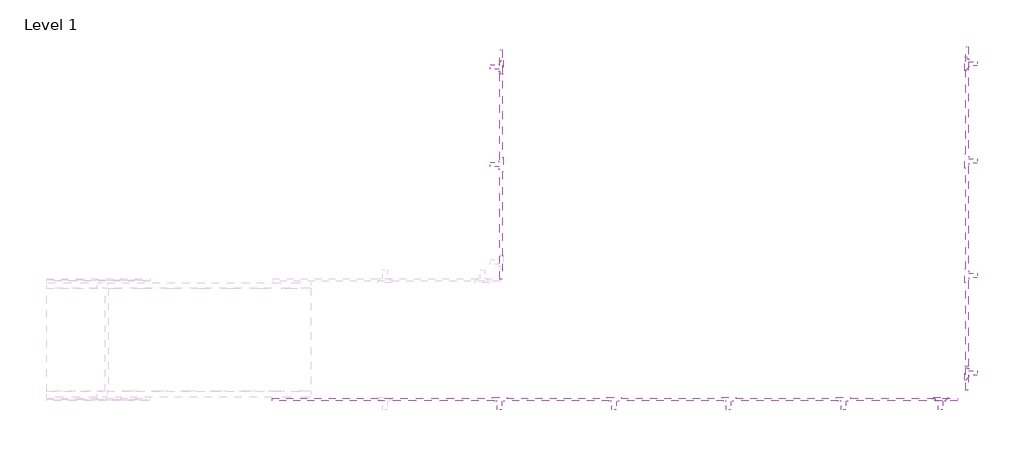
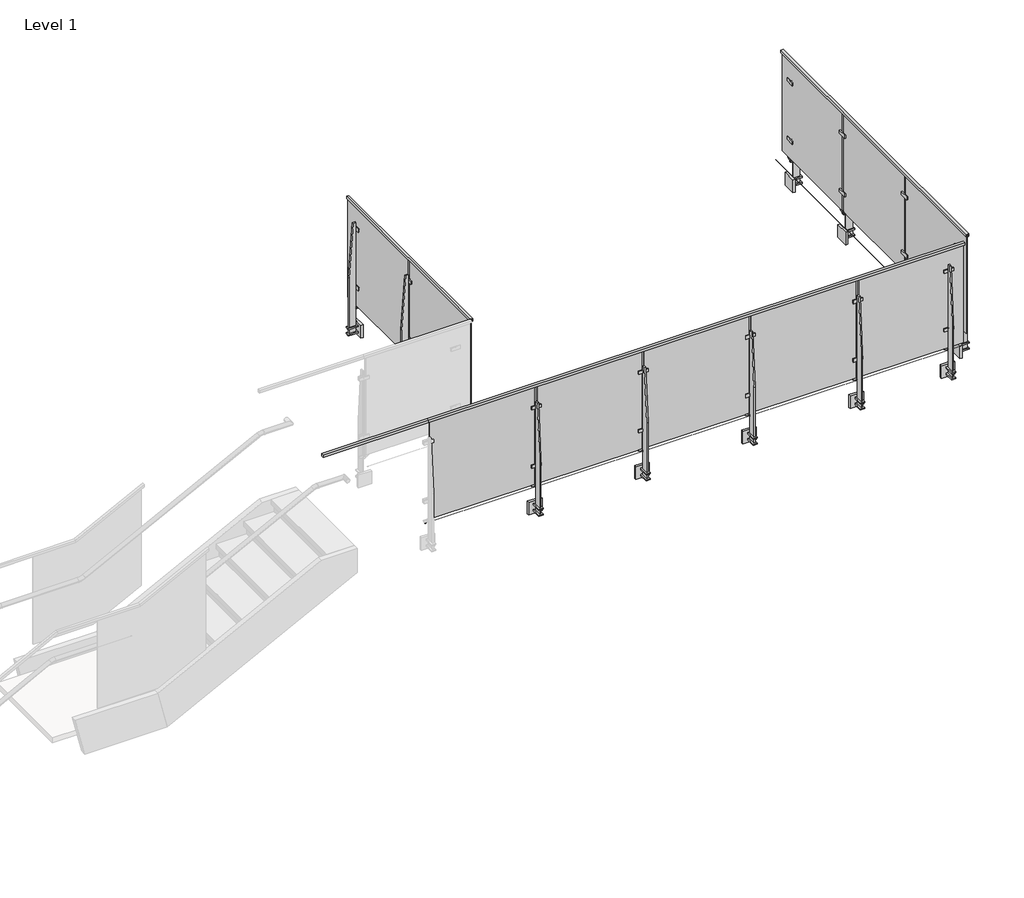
# One storey, part 31 of 37: 4 proxies, 3 railings.
"""IFC4 building model written with IfcOpenShell, lengths in millimetres."""

from ifc_helpers import new_model, si_unit, point, frame, frame_2d, origin, place, context, project, spatial, polyline, circle_curve, trimmed, segment, composite_curve, outline, extrude, faceted_brep, transform, mapped, element, save
from components import baluster_end_post_viva_solo_top_mount_260e03f1, baluster_end_post_viva_solo_top_mount_5a94812b

model = new_model("IFC4")

# Units and contexts
model_context = context("Model", 3, world=origin())
ifc_project = project(units=[si_unit("LENGTHUNIT", "METRE", prefix="MILLI")], contexts=[model_context])

# Site, building, storey
site = spatial("IfcSite", under=ifc_project)
building = spatial("IfcBuilding", under=site)
storey = spatial("IfcBuildingStorey", under=building, Name="Level 1", Elevation=0.0)

# Proxies
placement = place(None, origin())
baluster_end_post_viva_solo_top_mount_shape = baluster_end_post_viva_solo_top_mount_260e03f1(model_context)
element("IfcBuildingElementProxy", 1, Name="Baluster-End-Post-VIVA-SOLO-Top Mount : ANCHORED TO CONCRETE_FASCIA B1 MOUNT FOLD_STRAIGHT", ObjectType="Baluster-End-Post-VIVA-SOLO-Top Mount : ANCHORED TO CONCRETE_FASCIA B1 MOUNT FOLD_STRAIGHT", at=placement, inside=storey, context=model_context, shape_type="MappedRepresentation", body=[
    mapped(baluster_end_post_viva_solo_top_mount_shape, transform((13903.0469465, 22884.3892864, 3047.492), x_axis=(0.0, 1.0, 0.0), y_axis=(-1.0, 0.0, 0.0), z_axis=(0.0, 0.0, 1.0))),
])
element("IfcBuildingElementProxy", 2, Name="Baluster-End-Post-VIVA-SOLO-Top Mount : ANCHORED TO CONCRETE_FASCIA B1 MOUNT FOLD_STRAIGHT", ObjectType="Baluster-End-Post-VIVA-SOLO-Top Mount : ANCHORED TO CONCRETE_FASCIA B1 MOUNT FOLD_STRAIGHT", at=placement, inside=storey, context=model_context, shape_type="MappedRepresentation", body=[
    mapped(baluster_end_post_viva_solo_top_mount_shape, transform((9883.7633116, 25902.0118977, 3047.492), x_axis=(0.0, -1.0, 0.0), y_axis=(1.0, 0.0, 0.0), z_axis=(0.0, 0.0, 1.0))),
])
baluster_end_post_viva_solo_top_mount_2_shape = baluster_end_post_viva_solo_top_mount_5a94812b(model_context)
element("IfcBuildingElementProxy", 3, Name="Baluster-End-Post-VIVA-SOLO-Top Mount : ANCHORED TO CONCRETE_FASCIA B1 MOUNT FOLD_STRAIGHT", ObjectType="Baluster-End-Post-VIVA-SOLO-Top Mount : ANCHORED TO CONCRETE_FASCIA B1 MOUNT FOLD_STRAIGHT", at=placement, inside=storey, context=model_context, shape_type="MappedRepresentation", body=[
    mapped(baluster_end_post_viva_solo_top_mount_2_shape, transform((13879.6346922, 22860.1991645, 3047.492), x_axis=(1.0, 0.0, 0.0), y_axis=(0.0, 1.0, 0.0), z_axis=(0.0, 0.0, 1.0))),
])
element("IfcBuildingElementProxy", 4, Name="Baluster-End-Post-VIVA-SOLO-Top Mount : ANCHORED TO CONCRETE_FASCIA B1 MOUNT FOLD_STRAIGHT", ObjectType="Baluster-End-Post-VIVA-SOLO-Top Mount : ANCHORED TO CONCRETE_FASCIA B1 MOUNT FOLD_STRAIGHT", at=placement, inside=storey, context=model_context, shape_type="MappedRepresentation", body=[
    mapped(baluster_end_post_viva_solo_top_mount_2_shape, transform((13903.0469465, 25932.3892864, 3047.492), x_axis=(0.0, 1.0, 0.0), y_axis=(-1.0, 0.0, 0.0), z_axis=(0.0, 0.0, 1.0))),
])

# Railings
element("IfcRailing", 5, ObjectType="VIVA-SOLO-Glass-Fascia Mount-Straight-B1", at=placement, inside=storey, context=model_context, shape_type="SolidModel", body=[
    extrude(outline(composite_curve([segment(trimmed(circle_curve(frame_2d((22860.1991645, 3047.746)), 0.254), [point((22859.9451645, 3047.746))], [point((22860.4531645, 3047.746))], False, "CARTESIAN"), True, "CONTINUOUS"), segment(trimmed(circle_curve(frame_2d((22860.1991645, 3047.746)), 0.254), [point((22860.4531645, 3047.746))], [point((22859.9451645, 3047.746))], False, "CARTESIAN"), True, "CONTINUOUS")], self_intersect=False)), frame((8799.6346922, 0.0, 0.0), z_axis=(1.0, 0.0, 0.0), x_axis=(0.0, 1.0, 0.0)), (0.0, 0.0, 1.0), 5080.0),
    extrude(outline(composite_curve([segment(trimmed(circle_curve(frame_2d((22860.1991645, 3047.746)), 0.254), [point((22859.9451645, 3047.746))], [point((22860.4531645, 3047.746))], False, "CARTESIAN"), True, "CONTINUOUS"), segment(trimmed(circle_curve(frame_2d((22860.1991645, 3047.746)), 0.254), [point((22860.4531645, 3047.746))], [point((22859.9451645, 3047.746))], False, "CARTESIAN"), True, "CONTINUOUS")], self_intersect=False)), frame((8799.6346922, 0.0, 0.0), z_axis=(1.0, 0.0, 0.0), x_axis=(0.0, 1.0, 0.0)), (0.0, 0.0, 1.0), 5080.0),
    faceted_brep([(13879.6346922, 22792.2541645, 4127.5), (13879.6346922, 22792.2541645, 4102.1), (13879.6346922, 22797.0166645, 4102.1), (13879.6346922, 22797.0166645, 4122.7375), (13879.6346922, 22809.7166645, 4122.7375), (13879.6346922, 22809.7166645, 4102.1), (13879.6346922, 22814.4791645, 4102.1), (13879.6346922, 22814.4791645, 4127.5), (8799.6346922, 22814.4791645, 4127.5), (8799.6346922, 22792.2541645, 4127.5), (8799.6346922, 22814.4791645, 4102.1), (8799.6346922, 22809.7166645, 4102.1), (8799.6346922, 22809.7166645, 4122.7375), (8799.6346922, 22797.0166645, 4122.7375), (8799.6346922, 22797.0166645, 4102.1), (8799.6346922, 22792.2541645, 4102.1), (7798.4793748, 22792.2541645, 4127.5), (7798.4793748, 22814.4791645, 4127.5), (7798.4793748, 22814.4791645, 4102.1), (7798.4793748, 22809.7166645, 4102.1), (7798.4793748, 22809.7166645, 4122.7375), (7798.4793748, 22797.0166645, 4122.7375), (7798.4793748, 22797.0166645, 4102.1), (7798.4793748, 22792.2541645, 4102.1)], [[[0, 1, 2, 3, 4, 5, 6, 7]], [[8, 9, 0, 7]], [[10, 8, 7, 6]], [[11, 10, 6, 5]], [[12, 11, 5, 4]], [[13, 12, 4, 3]], [[14, 13, 3, 2]], [[15, 14, 2, 1]], [[9, 15, 1, 0]], [[16, 17, 18, 19, 20, 21, 22, 23]], [[17, 16, 9, 8]], [[18, 17, 8, 10]], [[19, 18, 10, 11]], [[20, 19, 11, 12]], [[21, 20, 12, 13]], [[22, 21, 13, 14]], [[23, 22, 14, 15]], [[16, 23, 15, 9]]]),
    extrude(outline(polyline([(12876.7177388, 22809.6531645), (13867.3177388, 22809.6531645), (13867.3177388, 22796.9531645), (12876.7177388, 22796.9531645), (12876.7177388, 22809.6531645)])), frame((0.0, 0.0, 3124.2), z_axis=(0.0, 0.0, 1.0), x_axis=(1.0, 0.0, 0.0)), (0.0, 0.0, 1.0), 998.474),
    extrude(outline(polyline([(22787.4281645, 3962.4), (22787.4281645, 2863.85), (22723.9281645, 2863.85), (22723.9281645, 3429.0), (22762.0281645, 3962.4), (22787.4281645, 3962.4)])), frame((12857.2846922, 0.0, 0.0), z_axis=(1.0, 0.0, 0.0), x_axis=(0.0, 1.0, 0.0)), (0.0, 0.0, 1.0), 12.7),
    extrude(outline(polyline([(12883.4784422, 22803.3031645), (12883.4784422, 22709.6406645), (12843.7909422, 22709.6406645), (12843.7909422, 22803.3031645), (12883.4784422, 22803.3031645)])), frame((0.0, 0.0, 2919.4125), z_axis=(0.0, 0.0, 1.0), x_axis=(1.0, 0.0, 0.0)), (0.0, 0.0, 1.0), 12.7),
    extrude(outline(polyline([(12883.4784422, 22803.3031645), (12883.4784422, 22709.6406645), (12843.7909422, 22709.6406645), (12843.7909422, 22803.3031645), (12883.4784422, 22803.3031645)])), frame((0.0, 0.0, 2859.0875), z_axis=(0.0, 0.0, 1.0), x_axis=(1.0, 0.0, 0.0)), (0.0, 0.0, 1.0), 12.7),
    extrude(outline(polyline([(12819.1846922, 22796.9531645), (12908.0846922, 22796.9531645), (12908.0846922, 22787.4281645), (12819.1846922, 22787.4281645), (12819.1846922, 22796.9531645)])), frame((0.0, 0.0, 3299.9910694), z_axis=(0.0, 0.0, 1.0), x_axis=(1.0, 0.0, 0.0)), (0.0, 0.0, 1.0), 31.75),
    extrude(outline(polyline([(12819.1846922, 22796.9531645), (12908.0846922, 22796.9531645), (12908.0846922, 22787.4281645), (12819.1846922, 22787.4281645), (12819.1846922, 22796.9531645)])), frame((0.0, 0.0, 3886.2992187), z_axis=(0.0, 0.0, 1.0), x_axis=(1.0, 0.0, 0.0)), (0.0, 0.0, 1.0), 31.75),
    extrude(outline(polyline([(12819.1846922, 22819.1781645), (12908.0846922, 22819.1781645), (12908.0846922, 22809.6531645), (12819.1846922, 22809.6531645), (12819.1846922, 22819.1781645)])), frame((0.0, 0.0, 3299.9910694), z_axis=(0.0, 0.0, 1.0), x_axis=(1.0, 0.0, 0.0)), (0.0, 0.0, 1.0), 31.75),
    extrude(outline(polyline([(12819.1846922, 22819.1781645), (12908.0846922, 22819.1781645), (12908.0846922, 22809.6531645), (12819.1846922, 22809.6531645), (12819.1846922, 22819.1781645)])), frame((0.0, 0.0, 3886.2992187), z_axis=(0.0, 0.0, 1.0), x_axis=(1.0, 0.0, 0.0)), (0.0, 0.0, 1.0), 31.75),
    extrude(outline(polyline([(3124.2, 12908.0846922), (3124.2, 12819.1846922), (3117.85, 12819.1846922), (3095.9353513, 12863.6346922), (3117.85, 12908.0846922), (3124.2, 12908.0846922)])), frame((0.0, 22796.9531645, 0.0), z_axis=(0.0, 1.0, 0.0), x_axis=(0.0, 0.0, 1.0)), (0.0, 0.0, 1.0), 12.7),
    extrude(outline(polyline([(12800.1346922, 22823.9406645), (12927.1346922, 22823.9406645), (12927.1346922, 22803.3031645), (12800.1346922, 22803.3031645), (12800.1346922, 22823.9406645)])), frame((0.0, 0.0, 2832.1), z_axis=(0.0, 0.0, 1.0), x_axis=(1.0, 0.0, 0.0)), (0.0, 0.0, 1.0), 127.0),
    extrude(outline(composite_curve([segment(trimmed(circle_curve(frame_2d((3315.8660694, 12863.6346922)), 6.35), [point((3315.8660694, 12869.9846922))], [point((3315.8660694, 12857.2846922))], False, "CARTESIAN"), True, "CONTINUOUS"), segment(trimmed(circle_curve(frame_2d((3315.8660694, 12863.6346922)), 6.35), [point((3315.8660694, 12857.2846922))], [point((3315.8660694, 12869.9846922))], False, "CARTESIAN"), True, "CONTINUOUS")], self_intersect=False)), frame((0.0, 22796.9531645, 0.0), z_axis=(0.0, 1.0, 0.0), x_axis=(0.0, 0.0, 1.0)), (0.0, 0.0, 1.0), 12.7),
    extrude(outline(composite_curve([segment(trimmed(circle_curve(frame_2d((3902.1742187, 12863.6346922)), 6.35), [point((3902.1742187, 12869.9846922))], [point((3902.1742187, 12857.2846922))], False, "CARTESIAN"), True, "CONTINUOUS"), segment(trimmed(circle_curve(frame_2d((3902.1742187, 12863.6346922)), 6.35), [point((3902.1742187, 12857.2846922))], [point((3902.1742187, 12869.9846922))], False, "CARTESIAN"), True, "CONTINUOUS")], self_intersect=False)), frame((0.0, 22796.9531645, 0.0), z_axis=(0.0, 1.0, 0.0), x_axis=(0.0, 0.0, 1.0)), (0.0, 0.0, 1.0), 12.7),
    extrude(outline(composite_curve([segment(trimmed(circle_curve(frame_2d((3108.325, 12863.6346922)), 11.1125), [point((3108.325, 12874.7471922))], [point((3108.325, 12852.5221922))], False, "CARTESIAN"), True, "CONTINUOUS"), segment(trimmed(circle_curve(frame_2d((3108.325, 12863.6346922)), 11.1125), [point((3108.325, 12852.5221922))], [point((3108.325, 12874.7471922))], False, "CARTESIAN"), True, "CONTINUOUS")], self_intersect=False)), frame((0.0, 22787.4281645, 0.0), z_axis=(0.0, 1.0, 0.0), x_axis=(0.0, 0.0, 1.0)), (0.0, 0.0, 1.0), 25.4),
    extrude(outline(polyline([(11860.7177388, 22809.6531645), (12851.3177388, 22809.6531645), (12851.3177388, 22796.9531645), (11860.7177388, 22796.9531645), (11860.7177388, 22809.6531645)])), frame((0.0, 0.0, 3124.2), z_axis=(0.0, 0.0, 1.0), x_axis=(1.0, 0.0, 0.0)), (0.0, 0.0, 1.0), 998.474),
    extrude(outline(polyline([(22787.4281645, 3962.4), (22787.4281645, 2863.85), (22723.9281645, 2863.85), (22723.9281645, 3429.0), (22762.0281645, 3962.4), (22787.4281645, 3962.4)])), frame((11841.2846922, 0.0, 0.0), z_axis=(1.0, 0.0, 0.0), x_axis=(0.0, 1.0, 0.0)), (0.0, 0.0, 1.0), 12.7),
    extrude(outline(polyline([(11867.4784422, 22803.3031645), (11867.4784422, 22709.6406645), (11827.7909422, 22709.6406645), (11827.7909422, 22803.3031645), (11867.4784422, 22803.3031645)])), frame((0.0, 0.0, 2919.4125), z_axis=(0.0, 0.0, 1.0), x_axis=(1.0, 0.0, 0.0)), (0.0, 0.0, 1.0), 12.7),
    extrude(outline(polyline([(11867.4784422, 22803.3031645), (11867.4784422, 22709.6406645), (11827.7909422, 22709.6406645), (11827.7909422, 22803.3031645), (11867.4784422, 22803.3031645)])), frame((0.0, 0.0, 2859.0875), z_axis=(0.0, 0.0, 1.0), x_axis=(1.0, 0.0, 0.0)), (0.0, 0.0, 1.0), 12.7),
    extrude(outline(polyline([(11803.1846922, 22796.9531645), (11892.0846922, 22796.9531645), (11892.0846922, 22787.4281645), (11803.1846922, 22787.4281645), (11803.1846922, 22796.9531645)])), frame((0.0, 0.0, 3299.9910694), z_axis=(0.0, 0.0, 1.0), x_axis=(1.0, 0.0, 0.0)), (0.0, 0.0, 1.0), 31.75),
    extrude(outline(polyline([(11803.1846922, 22796.9531645), (11892.0846922, 22796.9531645), (11892.0846922, 22787.4281645), (11803.1846922, 22787.4281645), (11803.1846922, 22796.9531645)])), frame((0.0, 0.0, 3886.2992187), z_axis=(0.0, 0.0, 1.0), x_axis=(1.0, 0.0, 0.0)), (0.0, 0.0, 1.0), 31.75),
    extrude(outline(polyline([(11803.1846922, 22819.1781645), (11892.0846922, 22819.1781645), (11892.0846922, 22809.6531645), (11803.1846922, 22809.6531645), (11803.1846922, 22819.1781645)])), frame((0.0, 0.0, 3299.9910694), z_axis=(0.0, 0.0, 1.0), x_axis=(1.0, 0.0, 0.0)), (0.0, 0.0, 1.0), 31.75),
    extrude(outline(polyline([(11803.1846922, 22819.1781645), (11892.0846922, 22819.1781645), (11892.0846922, 22809.6531645), (11803.1846922, 22809.6531645), (11803.1846922, 22819.1781645)])), frame((0.0, 0.0, 3886.2992187), z_axis=(0.0, 0.0, 1.0), x_axis=(1.0, 0.0, 0.0)), (0.0, 0.0, 1.0), 31.75),
    extrude(outline(polyline([(3124.2, 11892.0846922), (3124.2, 11803.1846922), (3117.85, 11803.1846922), (3095.9353513, 11847.6346922), (3117.85, 11892.0846922), (3124.2, 11892.0846922)])), frame((0.0, 22796.9531645, 0.0), z_axis=(0.0, 1.0, 0.0), x_axis=(0.0, 0.0, 1.0)), (0.0, 0.0, 1.0), 12.7),
    extrude(outline(polyline([(11784.1346922, 22823.9406645), (11911.1346922, 22823.9406645), (11911.1346922, 22803.3031645), (11784.1346922, 22803.3031645), (11784.1346922, 22823.9406645)])), frame((0.0, 0.0, 2832.1), z_axis=(0.0, 0.0, 1.0), x_axis=(1.0, 0.0, 0.0)), (0.0, 0.0, 1.0), 127.0),
    extrude(outline(composite_curve([segment(trimmed(circle_curve(frame_2d((3315.8660694, 11847.6346922)), 6.35), [point((3315.8660694, 11853.9846922))], [point((3315.8660694, 11841.2846922))], False, "CARTESIAN"), True, "CONTINUOUS"), segment(trimmed(circle_curve(frame_2d((3315.8660694, 11847.6346922)), 6.35), [point((3315.8660694, 11841.2846922))], [point((3315.8660694, 11853.9846922))], False, "CARTESIAN"), True, "CONTINUOUS")], self_intersect=False)), frame((0.0, 22796.9531645, 0.0), z_axis=(0.0, 1.0, 0.0), x_axis=(0.0, 0.0, 1.0)), (0.0, 0.0, 1.0), 12.7),
    extrude(outline(composite_curve([segment(trimmed(circle_curve(frame_2d((3902.1742187, 11847.6346922)), 6.35), [point((3902.1742187, 11853.9846922))], [point((3902.1742187, 11841.2846922))], False, "CARTESIAN"), True, "CONTINUOUS"), segment(trimmed(circle_curve(frame_2d((3902.1742187, 11847.6346922)), 6.35), [point((3902.1742187, 11841.2846922))], [point((3902.1742187, 11853.9846922))], False, "CARTESIAN"), True, "CONTINUOUS")], self_intersect=False)), frame((0.0, 22796.9531645, 0.0), z_axis=(0.0, 1.0, 0.0), x_axis=(0.0, 0.0, 1.0)), (0.0, 0.0, 1.0), 12.7),
    extrude(outline(composite_curve([segment(trimmed(circle_curve(frame_2d((3108.325, 11847.6346922)), 11.1125), [point((3108.325, 11858.7471922))], [point((3108.325, 11836.5221922))], False, "CARTESIAN"), True, "CONTINUOUS"), segment(trimmed(circle_curve(frame_2d((3108.325, 11847.6346922)), 11.1125), [point((3108.325, 11836.5221922))], [point((3108.325, 11858.7471922))], False, "CARTESIAN"), True, "CONTINUOUS")], self_intersect=False)), frame((0.0, 22787.4281645, 0.0), z_axis=(0.0, 1.0, 0.0), x_axis=(0.0, 0.0, 1.0)), (0.0, 0.0, 1.0), 25.4),
    extrude(outline(polyline([(10844.7177388, 22809.6531645), (11835.3177388, 22809.6531645), (11835.3177388, 22796.9531645), (10844.7177388, 22796.9531645), (10844.7177388, 22809.6531645)])), frame((0.0, 0.0, 3124.2), z_axis=(0.0, 0.0, 1.0), x_axis=(1.0, 0.0, 0.0)), (0.0, 0.0, 1.0), 998.474),
    extrude(outline(polyline([(22787.4281645, 3962.4), (22787.4281645, 2863.85), (22723.9281645, 2863.85), (22723.9281645, 3429.0), (22762.0281645, 3962.4), (22787.4281645, 3962.4)])), frame((10825.2846922, 0.0, 0.0), z_axis=(1.0, 0.0, 0.0), x_axis=(0.0, 1.0, 0.0)), (0.0, 0.0, 1.0), 12.7),
    extrude(outline(polyline([(10851.4784422, 22803.3031645), (10851.4784422, 22709.6406645), (10811.7909422, 22709.6406645), (10811.7909422, 22803.3031645), (10851.4784422, 22803.3031645)])), frame((0.0, 0.0, 2919.4125), z_axis=(0.0, 0.0, 1.0), x_axis=(1.0, 0.0, 0.0)), (0.0, 0.0, 1.0), 12.7),
    extrude(outline(polyline([(10851.4784422, 22803.3031645), (10851.4784422, 22709.6406645), (10811.7909422, 22709.6406645), (10811.7909422, 22803.3031645), (10851.4784422, 22803.3031645)])), frame((0.0, 0.0, 2859.0875), z_axis=(0.0, 0.0, 1.0), x_axis=(1.0, 0.0, 0.0)), (0.0, 0.0, 1.0), 12.7),
    extrude(outline(polyline([(10787.1846922, 22796.9531645), (10876.0846922, 22796.9531645), (10876.0846922, 22787.4281645), (10787.1846922, 22787.4281645), (10787.1846922, 22796.9531645)])), frame((0.0, 0.0, 3299.9910694), z_axis=(0.0, 0.0, 1.0), x_axis=(1.0, 0.0, 0.0)), (0.0, 0.0, 1.0), 31.75),
    extrude(outline(polyline([(10787.1846922, 22796.9531645), (10876.0846922, 22796.9531645), (10876.0846922, 22787.4281645), (10787.1846922, 22787.4281645), (10787.1846922, 22796.9531645)])), frame((0.0, 0.0, 3886.2992187), z_axis=(0.0, 0.0, 1.0), x_axis=(1.0, 0.0, 0.0)), (0.0, 0.0, 1.0), 31.75),
    extrude(outline(polyline([(10787.1846922, 22819.1781645), (10876.0846922, 22819.1781645), (10876.0846922, 22809.6531645), (10787.1846922, 22809.6531645), (10787.1846922, 22819.1781645)])), frame((0.0, 0.0, 3299.9910694), z_axis=(0.0, 0.0, 1.0), x_axis=(1.0, 0.0, 0.0)), (0.0, 0.0, 1.0), 31.75),
    extrude(outline(polyline([(10787.1846922, 22819.1781645), (10876.0846922, 22819.1781645), (10876.0846922, 22809.6531645), (10787.1846922, 22809.6531645), (10787.1846922, 22819.1781645)])), frame((0.0, 0.0, 3886.2992187), z_axis=(0.0, 0.0, 1.0), x_axis=(1.0, 0.0, 0.0)), (0.0, 0.0, 1.0), 31.75),
    extrude(outline(polyline([(3124.2, 10876.0846922), (3124.2, 10787.1846922), (3117.85, 10787.1846922), (3095.9353513, 10831.6346922), (3117.85, 10876.0846922), (3124.2, 10876.0846922)])), frame((0.0, 22796.9531645, 0.0), z_axis=(0.0, 1.0, 0.0), x_axis=(0.0, 0.0, 1.0)), (0.0, 0.0, 1.0), 12.7),
    extrude(outline(polyline([(10768.1346922, 22823.9406645), (10895.1346922, 22823.9406645), (10895.1346922, 22803.3031645), (10768.1346922, 22803.3031645), (10768.1346922, 22823.9406645)])), frame((0.0, 0.0, 2832.1), z_axis=(0.0, 0.0, 1.0), x_axis=(1.0, 0.0, 0.0)), (0.0, 0.0, 1.0), 127.0),
    extrude(outline(composite_curve([segment(trimmed(circle_curve(frame_2d((3315.8660694, 10831.6346922)), 6.35), [point((3315.8660694, 10837.9846922))], [point((3315.8660694, 10825.2846922))], False, "CARTESIAN"), True, "CONTINUOUS"), segment(trimmed(circle_curve(frame_2d((3315.8660694, 10831.6346922)), 6.35), [point((3315.8660694, 10825.2846922))], [point((3315.8660694, 10837.9846922))], False, "CARTESIAN"), True, "CONTINUOUS")], self_intersect=False)), frame((0.0, 22796.9531645, 0.0), z_axis=(0.0, 1.0, 0.0), x_axis=(0.0, 0.0, 1.0)), (0.0, 0.0, 1.0), 12.7),
    extrude(outline(composite_curve([segment(trimmed(circle_curve(frame_2d((3902.1742187, 10831.6346922)), 6.35), [point((3902.1742187, 10837.9846922))], [point((3902.1742187, 10825.2846922))], False, "CARTESIAN"), True, "CONTINUOUS"), segment(trimmed(circle_curve(frame_2d((3902.1742187, 10831.6346922)), 6.35), [point((3902.1742187, 10825.2846922))], [point((3902.1742187, 10837.9846922))], False, "CARTESIAN"), True, "CONTINUOUS")], self_intersect=False)), frame((0.0, 22796.9531645, 0.0), z_axis=(0.0, 1.0, 0.0), x_axis=(0.0, 0.0, 1.0)), (0.0, 0.0, 1.0), 12.7),
    extrude(outline(composite_curve([segment(trimmed(circle_curve(frame_2d((3108.325, 10831.6346922)), 11.1125), [point((3108.325, 10842.7471922))], [point((3108.325, 10820.5221922))], False, "CARTESIAN"), True, "CONTINUOUS"), segment(trimmed(circle_curve(frame_2d((3108.325, 10831.6346922)), 11.1125), [point((3108.325, 10820.5221922))], [point((3108.325, 10842.7471922))], False, "CARTESIAN"), True, "CONTINUOUS")], self_intersect=False)), frame((0.0, 22787.4281645, 0.0), z_axis=(0.0, 1.0, 0.0), x_axis=(0.0, 0.0, 1.0)), (0.0, 0.0, 1.0), 25.4),
    extrude(outline(polyline([(9828.7177388, 22809.6531645), (10819.3177388, 22809.6531645), (10819.3177388, 22796.9531645), (9828.7177388, 22796.9531645), (9828.7177388, 22809.6531645)])), frame((0.0, 0.0, 3124.2), z_axis=(0.0, 0.0, 1.0), x_axis=(1.0, 0.0, 0.0)), (0.0, 0.0, 1.0), 998.474),
    extrude(outline(polyline([(22787.4281645, 3962.4), (22787.4281645, 2863.85), (22723.9281645, 2863.85), (22723.9281645, 3429.0), (22762.0281645, 3962.4), (22787.4281645, 3962.4)])), frame((9809.2846922, 0.0, 0.0), z_axis=(1.0, 0.0, 0.0), x_axis=(0.0, 1.0, 0.0)), (0.0, 0.0, 1.0), 12.7),
    extrude(outline(polyline([(9835.4784422, 22803.3031645), (9835.4784422, 22709.6406645), (9795.7909422, 22709.6406645), (9795.7909422, 22803.3031645), (9835.4784422, 22803.3031645)])), frame((0.0, 0.0, 2919.4125), z_axis=(0.0, 0.0, 1.0), x_axis=(1.0, 0.0, 0.0)), (0.0, 0.0, 1.0), 12.7),
    extrude(outline(polyline([(9835.4784422, 22803.3031645), (9835.4784422, 22709.6406645), (9795.7909422, 22709.6406645), (9795.7909422, 22803.3031645), (9835.4784422, 22803.3031645)])), frame((0.0, 0.0, 2859.0875), z_axis=(0.0, 0.0, 1.0), x_axis=(1.0, 0.0, 0.0)), (0.0, 0.0, 1.0), 12.7),
    extrude(outline(polyline([(9771.1846922, 22796.9531645), (9860.0846922, 22796.9531645), (9860.0846922, 22787.4281645), (9771.1846922, 22787.4281645), (9771.1846922, 22796.9531645)])), frame((0.0, 0.0, 3299.9910694), z_axis=(0.0, 0.0, 1.0), x_axis=(1.0, 0.0, 0.0)), (0.0, 0.0, 1.0), 31.75),
    extrude(outline(polyline([(9771.1846922, 22796.9531645), (9860.0846922, 22796.9531645), (9860.0846922, 22787.4281645), (9771.1846922, 22787.4281645), (9771.1846922, 22796.9531645)])), frame((0.0, 0.0, 3886.2992187), z_axis=(0.0, 0.0, 1.0), x_axis=(1.0, 0.0, 0.0)), (0.0, 0.0, 1.0), 31.75),
    extrude(outline(polyline([(9771.1846922, 22819.1781645), (9860.0846922, 22819.1781645), (9860.0846922, 22809.6531645), (9771.1846922, 22809.6531645), (9771.1846922, 22819.1781645)])), frame((0.0, 0.0, 3299.9910694), z_axis=(0.0, 0.0, 1.0), x_axis=(1.0, 0.0, 0.0)), (0.0, 0.0, 1.0), 31.75),
    extrude(outline(polyline([(9771.1846922, 22819.1781645), (9860.0846922, 22819.1781645), (9860.0846922, 22809.6531645), (9771.1846922, 22809.6531645), (9771.1846922, 22819.1781645)])), frame((0.0, 0.0, 3886.2992187), z_axis=(0.0, 0.0, 1.0), x_axis=(1.0, 0.0, 0.0)), (0.0, 0.0, 1.0), 31.75),
    extrude(outline(polyline([(3124.2, 9860.0846922), (3124.2, 9771.1846922), (3117.85, 9771.1846922), (3095.9353513, 9815.6346922), (3117.85, 9860.0846922), (3124.2, 9860.0846922)])), frame((0.0, 22796.9531645, 0.0), z_axis=(0.0, 1.0, 0.0), x_axis=(0.0, 0.0, 1.0)), (0.0, 0.0, 1.0), 12.7),
    extrude(outline(polyline([(9752.1346922, 22823.9406645), (9879.1346922, 22823.9406645), (9879.1346922, 22803.3031645), (9752.1346922, 22803.3031645), (9752.1346922, 22823.9406645)])), frame((0.0, 0.0, 2832.1), z_axis=(0.0, 0.0, 1.0), x_axis=(1.0, 0.0, 0.0)), (0.0, 0.0, 1.0), 127.0),
    extrude(outline(composite_curve([segment(trimmed(circle_curve(frame_2d((3315.8660694, 9815.6346922)), 6.35), [point((3315.8660694, 9821.9846922))], [point((3315.8660694, 9809.2846922))], False, "CARTESIAN"), True, "CONTINUOUS"), segment(trimmed(circle_curve(frame_2d((3315.8660694, 9815.6346922)), 6.35), [point((3315.8660694, 9809.2846922))], [point((3315.8660694, 9821.9846922))], False, "CARTESIAN"), True, "CONTINUOUS")], self_intersect=False)), frame((0.0, 22796.9531645, 0.0), z_axis=(0.0, 1.0, 0.0), x_axis=(0.0, 0.0, 1.0)), (0.0, 0.0, 1.0), 12.7),
    extrude(outline(composite_curve([segment(trimmed(circle_curve(frame_2d((3902.1742187, 9815.6346922)), 6.35), [point((3902.1742187, 9821.9846922))], [point((3902.1742187, 9809.2846922))], False, "CARTESIAN"), True, "CONTINUOUS"), segment(trimmed(circle_curve(frame_2d((3902.1742187, 9815.6346922)), 6.35), [point((3902.1742187, 9809.2846922))], [point((3902.1742187, 9821.9846922))], False, "CARTESIAN"), True, "CONTINUOUS")], self_intersect=False)), frame((0.0, 22796.9531645, 0.0), z_axis=(0.0, 1.0, 0.0), x_axis=(0.0, 0.0, 1.0)), (0.0, 0.0, 1.0), 12.7),
    extrude(outline(composite_curve([segment(trimmed(circle_curve(frame_2d((3108.325, 9815.6346922)), 11.1125), [point((3108.325, 9826.7471922))], [point((3108.325, 9804.5221922))], False, "CARTESIAN"), True, "CONTINUOUS"), segment(trimmed(circle_curve(frame_2d((3108.325, 9815.6346922)), 11.1125), [point((3108.325, 9804.5221922))], [point((3108.325, 9826.7471922))], False, "CARTESIAN"), True, "CONTINUOUS")], self_intersect=False)), frame((0.0, 22787.4281645, 0.0), z_axis=(0.0, 1.0, 0.0), x_axis=(0.0, 0.0, 1.0)), (0.0, 0.0, 1.0), 25.4),
    extrude(outline(polyline([(8812.7177388, 22809.6531645), (9803.3177388, 22809.6531645), (9803.3177388, 22796.9531645), (8812.7177388, 22796.9531645), (8812.7177388, 22809.6531645)])), frame((0.0, 0.0, 3124.2), z_axis=(0.0, 0.0, 1.0), x_axis=(1.0, 0.0, 0.0)), (0.0, 0.0, 1.0), 998.474),
])
element("IfcRailing", 6, ObjectType="VIVA-SOLO-Glass-Fascia Mount-Straight-B1", at=placement, inside=storey, context=model_context, shape_type="SweptSolid", body=[
    extrude(outline(composite_curve([segment(trimmed(circle_curve(frame_2d((3047.746, 13903.0469465)), 0.254), [point((3047.746, 13903.3009465))], [point((3047.746, 13902.7929465))], False, "CARTESIAN"), True, "CONTINUOUS"), segment(trimmed(circle_curve(frame_2d((3047.746, 13903.0469465)), 0.254), [point((3047.746, 13902.7929465))], [point((3047.746, 13903.3009465))], False, "CARTESIAN"), True, "CONTINUOUS")], self_intersect=False)), frame((0.0, 22884.3892864, 0.0), z_axis=(0.0, 1.0, 0.0), x_axis=(0.0, 0.0, 1.0)), (0.0, 0.0, 1.0), 3048.0),
    extrude(outline(composite_curve([segment(trimmed(circle_curve(frame_2d((3047.746, 13903.0469465)), 0.254), [point((3047.746, 13903.3009465))], [point((3047.746, 13902.7929465))], False, "CARTESIAN"), True, "CONTINUOUS"), segment(trimmed(circle_curve(frame_2d((3047.746, 13903.0469465)), 0.254), [point((3047.746, 13902.7929465))], [point((3047.746, 13903.3009465))], False, "CARTESIAN"), True, "CONTINUOUS")], self_intersect=False)), frame((0.0, 22884.3892864, 0.0), z_axis=(0.0, 1.0, 0.0), x_axis=(0.0, 0.0, 1.0)), (0.0, 0.0, 1.0), 3048.0),
    extrude(outline(polyline([(4127.5, 13970.9919465), (4127.5, 13948.7669465), (4102.1, 13948.7669465), (4102.1, 13953.5294465), (4122.7375, 13953.5294465), (4122.7375, 13966.2294465), (4102.1, 13966.2294465), (4102.1, 13970.9919465), (4127.5, 13970.9919465)])), frame((0.0, 22884.3892864, 0.0), z_axis=(0.0, 1.0, 0.0), x_axis=(0.0, 0.0, 1.0)), (0.0, 0.0, 1.0), 3048.0),
    extrude(outline(polyline([(13953.5929465, 24929.472333), (13953.5929465, 25920.072333), (13966.2929465, 25920.072333), (13966.2929465, 24929.472333), (13953.5929465, 24929.472333)])), frame((0.0, 0.0, 3124.2), z_axis=(0.0, 0.0, 1.0), x_axis=(1.0, 0.0, 0.0)), (0.0, 0.0, 1.0), 998.474),
    extrude(outline(polyline([(3962.4, 13975.8179465), (2863.85, 13975.8179465), (2863.85, 14039.3179465), (3429.0, 14039.3179465), (3962.4, 14001.2179465), (3962.4, 13975.8179465)])), frame((0.0, 24910.0392864, 0.0), z_axis=(0.0, 1.0, 0.0), x_axis=(0.0, 0.0, 1.0)), (0.0, 0.0, 1.0), 12.7),
    extrude(outline(polyline([(13959.9429465, 24936.2330364), (14053.6054465, 24936.2330364), (14053.6054465, 24896.5455364), (13959.9429465, 24896.5455364), (13959.9429465, 24936.2330364)])), frame((0.0, 0.0, 2919.4125), z_axis=(0.0, 0.0, 1.0), x_axis=(1.0, 0.0, 0.0)), (0.0, 0.0, 1.0), 12.7),
    extrude(outline(polyline([(13959.9429465, 24936.2330364), (14053.6054465, 24936.2330364), (14053.6054465, 24896.5455364), (13959.9429465, 24896.5455364), (13959.9429465, 24936.2330364)])), frame((0.0, 0.0, 2859.0875), z_axis=(0.0, 0.0, 1.0), x_axis=(1.0, 0.0, 0.0)), (0.0, 0.0, 1.0), 12.7),
    extrude(outline(polyline([(13966.2929465, 24871.9392864), (13966.2929465, 24960.8392864), (13975.8179465, 24960.8392864), (13975.8179465, 24871.9392864), (13966.2929465, 24871.9392864)])), frame((0.0, 0.0, 3299.9910694), z_axis=(0.0, 0.0, 1.0), x_axis=(1.0, 0.0, 0.0)), (0.0, 0.0, 1.0), 31.75),
    extrude(outline(polyline([(13966.2929465, 24871.9392864), (13966.2929465, 24960.8392864), (13975.8179465, 24960.8392864), (13975.8179465, 24871.9392864), (13966.2929465, 24871.9392864)])), frame((0.0, 0.0, 3886.2992187), z_axis=(0.0, 0.0, 1.0), x_axis=(1.0, 0.0, 0.0)), (0.0, 0.0, 1.0), 31.75),
    extrude(outline(polyline([(13944.0679465, 24871.9392864), (13944.0679465, 24960.8392864), (13953.5929465, 24960.8392864), (13953.5929465, 24871.9392864), (13944.0679465, 24871.9392864)])), frame((0.0, 0.0, 3299.9910694), z_axis=(0.0, 0.0, 1.0), x_axis=(1.0, 0.0, 0.0)), (0.0, 0.0, 1.0), 31.75),
    extrude(outline(polyline([(13944.0679465, 24871.9392864), (13944.0679465, 24960.8392864), (13953.5929465, 24960.8392864), (13953.5929465, 24871.9392864), (13944.0679465, 24871.9392864)])), frame((0.0, 0.0, 3886.2992187), z_axis=(0.0, 0.0, 1.0), x_axis=(1.0, 0.0, 0.0)), (0.0, 0.0, 1.0), 31.75),
    extrude(outline(polyline([(24960.8392864, 3124.2), (24960.8392864, 3117.85), (24916.3892864, 3095.9353513), (24871.9392864, 3117.85), (24871.9392864, 3124.2), (24960.8392864, 3124.2)])), frame((13953.5929465, 0.0, 0.0), z_axis=(1.0, 0.0, 0.0), x_axis=(0.0, 1.0, 0.0)), (0.0, 0.0, 1.0), 12.7),
    extrude(outline(polyline([(13939.3054465, 24852.8892864), (13939.3054465, 24979.8892864), (13959.9429465, 24979.8892864), (13959.9429465, 24852.8892864), (13939.3054465, 24852.8892864)])), frame((0.0, 0.0, 2832.1), z_axis=(0.0, 0.0, 1.0), x_axis=(1.0, 0.0, 0.0)), (0.0, 0.0, 1.0), 127.0),
    extrude(outline(composite_curve([segment(trimmed(circle_curve(frame_2d((24916.3892864, 3315.8660694)), 6.35), [point((24922.7392864, 3315.8660694))], [point((24910.0392864, 3315.8660694))], False, "CARTESIAN"), True, "CONTINUOUS"), segment(trimmed(circle_curve(frame_2d((24916.3892864, 3315.8660694)), 6.35), [point((24910.0392864, 3315.8660694))], [point((24922.7392864, 3315.8660694))], False, "CARTESIAN"), True, "CONTINUOUS")], self_intersect=False)), frame((13953.5929465, 0.0, 0.0), z_axis=(1.0, 0.0, 0.0), x_axis=(0.0, 1.0, 0.0)), (0.0, 0.0, 1.0), 12.7),
    extrude(outline(composite_curve([segment(trimmed(circle_curve(frame_2d((24916.3892864, 3902.1742187)), 6.35), [point((24922.7392864, 3902.1742187))], [point((24910.0392864, 3902.1742187))], False, "CARTESIAN"), True, "CONTINUOUS"), segment(trimmed(circle_curve(frame_2d((24916.3892864, 3902.1742187)), 6.35), [point((24910.0392864, 3902.1742187))], [point((24922.7392864, 3902.1742187))], False, "CARTESIAN"), True, "CONTINUOUS")], self_intersect=False)), frame((13953.5929465, 0.0, 0.0), z_axis=(1.0, 0.0, 0.0), x_axis=(0.0, 1.0, 0.0)), (0.0, 0.0, 1.0), 12.7),
    extrude(outline(composite_curve([segment(trimmed(circle_curve(frame_2d((24916.3892864, 3108.325)), 11.1125), [point((24927.5017864, 3108.325))], [point((24905.2767864, 3108.325))], False, "CARTESIAN"), True, "CONTINUOUS"), segment(trimmed(circle_curve(frame_2d((24916.3892864, 3108.325)), 11.1125), [point((24905.2767864, 3108.325))], [point((24927.5017864, 3108.325))], False, "CARTESIAN"), True, "CONTINUOUS")], self_intersect=False)), frame((13950.4179465, 0.0, 0.0), z_axis=(1.0, 0.0, 0.0), x_axis=(0.0, 1.0, 0.0)), (0.0, 0.0, 1.0), 25.4),
    extrude(outline(polyline([(13953.5929465, 23913.472333), (13953.5929465, 24904.072333), (13966.2929465, 24904.072333), (13966.2929465, 23913.472333), (13953.5929465, 23913.472333)])), frame((0.0, 0.0, 3124.2), z_axis=(0.0, 0.0, 1.0), x_axis=(1.0, 0.0, 0.0)), (0.0, 0.0, 1.0), 998.474),
    extrude(outline(polyline([(3962.4, 13975.8179465), (2863.85, 13975.8179465), (2863.85, 14039.3179465), (3429.0, 14039.3179465), (3962.4, 14001.2179465), (3962.4, 13975.8179465)])), frame((0.0, 23894.0392864, 0.0), z_axis=(0.0, 1.0, 0.0), x_axis=(0.0, 0.0, 1.0)), (0.0, 0.0, 1.0), 12.7),
    extrude(outline(polyline([(13959.9429465, 23920.2330364), (14053.6054465, 23920.2330364), (14053.6054465, 23880.5455364), (13959.9429465, 23880.5455364), (13959.9429465, 23920.2330364)])), frame((0.0, 0.0, 2919.4125), z_axis=(0.0, 0.0, 1.0), x_axis=(1.0, 0.0, 0.0)), (0.0, 0.0, 1.0), 12.7),
    extrude(outline(polyline([(13959.9429465, 23920.2330364), (14053.6054465, 23920.2330364), (14053.6054465, 23880.5455364), (13959.9429465, 23880.5455364), (13959.9429465, 23920.2330364)])), frame((0.0, 0.0, 2859.0875), z_axis=(0.0, 0.0, 1.0), x_axis=(1.0, 0.0, 0.0)), (0.0, 0.0, 1.0), 12.7),
    extrude(outline(polyline([(13966.2929465, 23855.9392864), (13966.2929465, 23944.8392864), (13975.8179465, 23944.8392864), (13975.8179465, 23855.9392864), (13966.2929465, 23855.9392864)])), frame((0.0, 0.0, 3299.9910694), z_axis=(0.0, 0.0, 1.0), x_axis=(1.0, 0.0, 0.0)), (0.0, 0.0, 1.0), 31.75),
    extrude(outline(polyline([(13966.2929465, 23855.9392864), (13966.2929465, 23944.8392864), (13975.8179465, 23944.8392864), (13975.8179465, 23855.9392864), (13966.2929465, 23855.9392864)])), frame((0.0, 0.0, 3886.2992187), z_axis=(0.0, 0.0, 1.0), x_axis=(1.0, 0.0, 0.0)), (0.0, 0.0, 1.0), 31.75),
    extrude(outline(polyline([(13944.0679465, 23855.9392864), (13944.0679465, 23944.8392864), (13953.5929465, 23944.8392864), (13953.5929465, 23855.9392864), (13944.0679465, 23855.9392864)])), frame((0.0, 0.0, 3299.9910694), z_axis=(0.0, 0.0, 1.0), x_axis=(1.0, 0.0, 0.0)), (0.0, 0.0, 1.0), 31.75),
    extrude(outline(polyline([(13944.0679465, 23855.9392864), (13944.0679465, 23944.8392864), (13953.5929465, 23944.8392864), (13953.5929465, 23855.9392864), (13944.0679465, 23855.9392864)])), frame((0.0, 0.0, 3886.2992187), z_axis=(0.0, 0.0, 1.0), x_axis=(1.0, 0.0, 0.0)), (0.0, 0.0, 1.0), 31.75),
    extrude(outline(polyline([(23944.8392864, 3124.2), (23944.8392864, 3117.85), (23900.3892864, 3095.9353513), (23855.9392864, 3117.85), (23855.9392864, 3124.2), (23944.8392864, 3124.2)])), frame((13953.5929465, 0.0, 0.0), z_axis=(1.0, 0.0, 0.0), x_axis=(0.0, 1.0, 0.0)), (0.0, 0.0, 1.0), 12.7),
    extrude(outline(polyline([(13939.3054465, 23836.8892864), (13939.3054465, 23963.8892864), (13959.9429465, 23963.8892864), (13959.9429465, 23836.8892864), (13939.3054465, 23836.8892864)])), frame((0.0, 0.0, 2832.1), z_axis=(0.0, 0.0, 1.0), x_axis=(1.0, 0.0, 0.0)), (0.0, 0.0, 1.0), 127.0),
    extrude(outline(composite_curve([segment(trimmed(circle_curve(frame_2d((23900.3892864, 3315.8660694)), 6.35), [point((23906.7392864, 3315.8660694))], [point((23894.0392864, 3315.8660694))], False, "CARTESIAN"), True, "CONTINUOUS"), segment(trimmed(circle_curve(frame_2d((23900.3892864, 3315.8660694)), 6.35), [point((23894.0392864, 3315.8660694))], [point((23906.7392864, 3315.8660694))], False, "CARTESIAN"), True, "CONTINUOUS")], self_intersect=False)), frame((13953.5929465, 0.0, 0.0), z_axis=(1.0, 0.0, 0.0), x_axis=(0.0, 1.0, 0.0)), (0.0, 0.0, 1.0), 12.7),
    extrude(outline(composite_curve([segment(trimmed(circle_curve(frame_2d((23900.3892864, 3902.1742187)), 6.35), [point((23906.7392864, 3902.1742187))], [point((23894.0392864, 3902.1742187))], False, "CARTESIAN"), True, "CONTINUOUS"), segment(trimmed(circle_curve(frame_2d((23900.3892864, 3902.1742187)), 6.35), [point((23894.0392864, 3902.1742187))], [point((23906.7392864, 3902.1742187))], False, "CARTESIAN"), True, "CONTINUOUS")], self_intersect=False)), frame((13953.5929465, 0.0, 0.0), z_axis=(1.0, 0.0, 0.0), x_axis=(0.0, 1.0, 0.0)), (0.0, 0.0, 1.0), 12.7),
    extrude(outline(composite_curve([segment(trimmed(circle_curve(frame_2d((23900.3892864, 3108.325)), 11.1125), [point((23911.5017864, 3108.325))], [point((23889.2767864, 3108.325))], False, "CARTESIAN"), True, "CONTINUOUS"), segment(trimmed(circle_curve(frame_2d((23900.3892864, 3108.325)), 11.1125), [point((23889.2767864, 3108.325))], [point((23911.5017864, 3108.325))], False, "CARTESIAN"), True, "CONTINUOUS")], self_intersect=False)), frame((13950.4179465, 0.0, 0.0), z_axis=(1.0, 0.0, 0.0), x_axis=(0.0, 1.0, 0.0)), (0.0, 0.0, 1.0), 25.4),
    extrude(outline(polyline([(13953.5929465, 22897.472333), (13953.5929465, 23888.072333), (13966.2929465, 23888.072333), (13966.2929465, 22897.472333), (13953.5929465, 22897.472333)])), frame((0.0, 0.0, 3124.2), z_axis=(0.0, 0.0, 1.0), x_axis=(1.0, 0.0, 0.0)), (0.0, 0.0, 1.0), 998.474),
])
element("IfcRailing", 7, ObjectType="VIVA-SOLO-Glass-Fascia Mount-Straight-B1", at=placement, inside=storey, context=model_context, shape_type="SweptSolid", body=[
    extrude(outline(composite_curve([segment(trimmed(circle_curve(frame_2d((3047.746, 9883.7633116)), 0.254), [point((3047.746, 9884.0173116))], [point((3047.746, 9883.5093116))], False, "CARTESIAN"), True, "CONTINUOUS"), segment(trimmed(circle_curve(frame_2d((3047.746, 9883.7633116)), 0.254), [point((3047.746, 9883.5093116))], [point((3047.746, 9884.0173116))], False, "CARTESIAN"), True, "CONTINUOUS")], self_intersect=False)), frame((0.0, 23870.0118977, 0.0), z_axis=(0.0, 1.0, 0.0), x_axis=(0.0, 0.0, 1.0)), (0.0, 0.0, 1.0), 2032.0),
    extrude(outline(composite_curve([segment(trimmed(circle_curve(frame_2d((3047.746, 9883.7633116)), 0.254), [point((3047.746, 9884.0173116))], [point((3047.746, 9883.5093116))], False, "CARTESIAN"), True, "CONTINUOUS"), segment(trimmed(circle_curve(frame_2d((3047.746, 9883.7633116)), 0.254), [point((3047.746, 9883.5093116))], [point((3047.746, 9884.0173116))], False, "CARTESIAN"), True, "CONTINUOUS")], self_intersect=False)), frame((0.0, 23870.0118977, 0.0), z_axis=(0.0, 1.0, 0.0), x_axis=(0.0, 0.0, 1.0)), (0.0, 0.0, 1.0), 2032.0),
    extrude(outline(polyline([(4127.5, 9838.0433116), (4127.5, 9815.8183116), (4102.1, 9815.8183116), (4102.1, 9820.5808116), (4122.7375, 9820.5808116), (4122.7375, 9833.2808116), (4102.1, 9833.2808116), (4102.1, 9838.0433116), (4127.5, 9838.0433116)])), frame((0.0, 23870.0118977, 0.0), z_axis=(0.0, 1.0, 0.0), x_axis=(0.0, 0.0, 1.0)), (0.0, 0.0, 1.0), 2032.0),
    extrude(outline(polyline([(9833.2173116, 24899.0949443), (9820.5173116, 24899.0949443), (9820.5173116, 25889.6949443), (9833.2173116, 25889.6949443), (9833.2173116, 24899.0949443)])), frame((0.0, 0.0, 3124.2), z_axis=(0.0, 0.0, 1.0), x_axis=(1.0, 0.0, 0.0)), (0.0, 0.0, 1.0), 998.474),
    extrude(outline(polyline([(3962.4, 9810.9923116), (3962.4, 9785.5923116), (3429.0, 9747.4923116), (2863.85, 9747.4923116), (2863.85, 9810.9923116), (3962.4, 9810.9923116)])), frame((0.0, 24879.6618977, 0.0), z_axis=(0.0, 1.0, 0.0), x_axis=(0.0, 0.0, 1.0)), (0.0, 0.0, 1.0), 12.7),
    extrude(outline(polyline([(9826.8673116, 24905.8556477), (9826.8673116, 24866.1681477), (9733.2048116, 24866.1681477), (9733.2048116, 24905.8556477), (9826.8673116, 24905.8556477)])), frame((0.0, 0.0, 2919.4125), z_axis=(0.0, 0.0, 1.0), x_axis=(1.0, 0.0, 0.0)), (0.0, 0.0, 1.0), 12.7),
    extrude(outline(polyline([(9826.8673116, 24905.8556477), (9826.8673116, 24866.1681477), (9733.2048116, 24866.1681477), (9733.2048116, 24905.8556477), (9826.8673116, 24905.8556477)])), frame((0.0, 0.0, 2859.0875), z_axis=(0.0, 0.0, 1.0), x_axis=(1.0, 0.0, 0.0)), (0.0, 0.0, 1.0), 12.7),
    extrude(outline(polyline([(9820.5173116, 24841.5618977), (9810.9923116, 24841.5618977), (9810.9923116, 24930.4618977), (9820.5173116, 24930.4618977), (9820.5173116, 24841.5618977)])), frame((0.0, 0.0, 3299.9910694), z_axis=(0.0, 0.0, 1.0), x_axis=(1.0, 0.0, 0.0)), (0.0, 0.0, 1.0), 31.75),
    extrude(outline(polyline([(9820.5173116, 24841.5618977), (9810.9923116, 24841.5618977), (9810.9923116, 24930.4618977), (9820.5173116, 24930.4618977), (9820.5173116, 24841.5618977)])), frame((0.0, 0.0, 3886.2992187), z_axis=(0.0, 0.0, 1.0), x_axis=(1.0, 0.0, 0.0)), (0.0, 0.0, 1.0), 31.75),
    extrude(outline(polyline([(9842.7423116, 24841.5618977), (9833.2173116, 24841.5618977), (9833.2173116, 24930.4618977), (9842.7423116, 24930.4618977), (9842.7423116, 24841.5618977)])), frame((0.0, 0.0, 3299.9910694), z_axis=(0.0, 0.0, 1.0), x_axis=(1.0, 0.0, 0.0)), (0.0, 0.0, 1.0), 31.75),
    extrude(outline(polyline([(9842.7423116, 24841.5618977), (9833.2173116, 24841.5618977), (9833.2173116, 24930.4618977), (9842.7423116, 24930.4618977), (9842.7423116, 24841.5618977)])), frame((0.0, 0.0, 3886.2992187), z_axis=(0.0, 0.0, 1.0), x_axis=(1.0, 0.0, 0.0)), (0.0, 0.0, 1.0), 31.75),
    extrude(outline(polyline([(24930.4618977, 3124.2), (24930.4618977, 3117.85), (24886.0118977, 3095.9353513), (24841.5618977, 3117.85), (24841.5618977, 3124.2), (24930.4618977, 3124.2)])), frame((9820.5173116, 0.0, 0.0), z_axis=(1.0, 0.0, 0.0), x_axis=(0.0, 1.0, 0.0)), (0.0, 0.0, 1.0), 12.7),
    extrude(outline(polyline([(9847.5048116, 24822.5118977), (9826.8673116, 24822.5118977), (9826.8673116, 24949.5118977), (9847.5048116, 24949.5118977), (9847.5048116, 24822.5118977)])), frame((0.0, 0.0, 2832.1), z_axis=(0.0, 0.0, 1.0), x_axis=(1.0, 0.0, 0.0)), (0.0, 0.0, 1.0), 127.0),
    extrude(outline(composite_curve([segment(trimmed(circle_curve(frame_2d((24886.0118977, 3315.8660694)), 6.35), [point((24892.3618977, 3315.8660694))], [point((24879.6618977, 3315.8660694))], False, "CARTESIAN"), True, "CONTINUOUS"), segment(trimmed(circle_curve(frame_2d((24886.0118977, 3315.8660694)), 6.35), [point((24879.6618977, 3315.8660694))], [point((24892.3618977, 3315.8660694))], False, "CARTESIAN"), True, "CONTINUOUS")], self_intersect=False)), frame((9820.5173116, 0.0, 0.0), z_axis=(1.0, 0.0, 0.0), x_axis=(0.0, 1.0, 0.0)), (0.0, 0.0, 1.0), 12.7),
    extrude(outline(composite_curve([segment(trimmed(circle_curve(frame_2d((24886.0118977, 3902.1742187)), 6.35), [point((24892.3618977, 3902.1742187))], [point((24879.6618977, 3902.1742187))], False, "CARTESIAN"), True, "CONTINUOUS"), segment(trimmed(circle_curve(frame_2d((24886.0118977, 3902.1742187)), 6.35), [point((24879.6618977, 3902.1742187))], [point((24892.3618977, 3902.1742187))], False, "CARTESIAN"), True, "CONTINUOUS")], self_intersect=False)), frame((9820.5173116, 0.0, 0.0), z_axis=(1.0, 0.0, 0.0), x_axis=(0.0, 1.0, 0.0)), (0.0, 0.0, 1.0), 12.7),
    extrude(outline(composite_curve([segment(trimmed(circle_curve(frame_2d((24886.0118977, 3108.325)), 11.1125), [point((24897.1243977, 3108.325))], [point((24874.8993977, 3108.325))], False, "CARTESIAN"), True, "CONTINUOUS"), segment(trimmed(circle_curve(frame_2d((24886.0118977, 3108.325)), 11.1125), [point((24874.8993977, 3108.325))], [point((24897.1243977, 3108.325))], False, "CARTESIAN"), True, "CONTINUOUS")], self_intersect=False)), frame((9810.9923116, 0.0, 0.0), z_axis=(1.0, 0.0, 0.0), x_axis=(0.0, 1.0, 0.0)), (0.0, 0.0, 1.0), 25.4),
    extrude(outline(polyline([(9833.2173116, 23883.0949443), (9820.5173116, 23883.0949443), (9820.5173116, 24873.6949443), (9833.2173116, 24873.6949443), (9833.2173116, 23883.0949443)])), frame((0.0, 0.0, 3124.2), z_axis=(0.0, 0.0, 1.0), x_axis=(1.0, 0.0, 0.0)), (0.0, 0.0, 1.0), 998.474),
])

save(model, "model.ifc")
